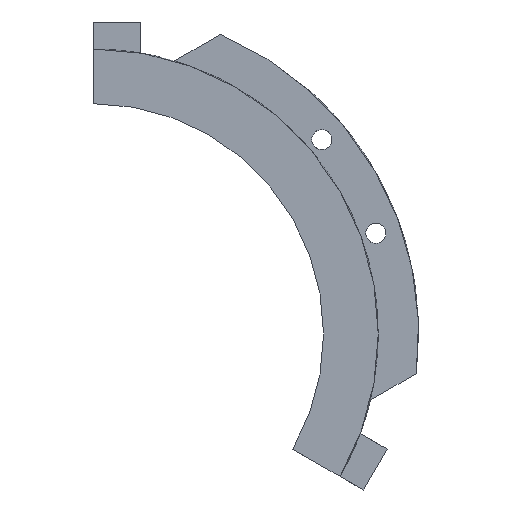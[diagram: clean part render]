
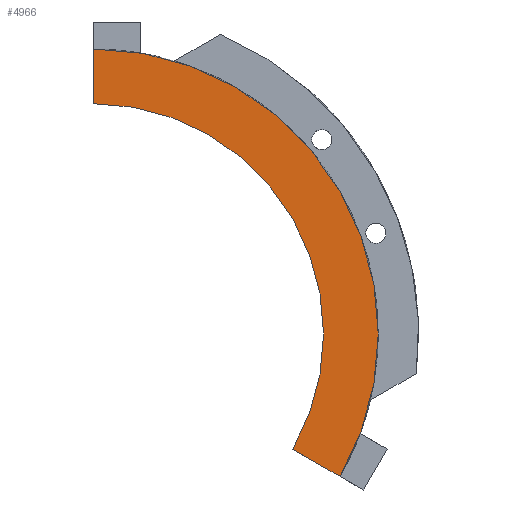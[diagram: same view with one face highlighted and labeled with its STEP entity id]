
A CAD part, left-side view. The second image highlights one B-rep face of the part: STEP entity #4966.
In plain terms, the highlighted planar face has unit normal (-1, 0, 0).
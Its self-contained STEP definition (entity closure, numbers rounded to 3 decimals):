
#32 = CYLINDRICAL_SURFACE('',#33,42.2);
#33 = AXIS2_PLACEMENT_3D('',#34,#35,#36);
#34 = CARTESIAN_POINT('',(-29.9,0.,0.));
#35 = DIRECTION('',(-1.,0.,-0.));
#36 = DIRECTION('',(0.,0.5,0.866));
#44 = PLANE('',#45);
#45 = AXIS2_PLACEMENT_3D('',#46,#47,#48);
#46 = CARTESIAN_POINT('',(-34.9,0.,200.));
#47 = DIRECTION('',(0.,1.,0.));
#48 = DIRECTION('',(0.,0.,-1.));
#101 = PLANE('',#102);
#102 = AXIS2_PLACEMENT_3D('',#103,#104,#105);
#103 = CARTESIAN_POINT('',(-34.9,0.,0.));
#104 = DIRECTION('',(0.,0.5,-0.866));
#105 = DIRECTION('',(0.,-0.866,-0.5));
#1254 = VERTEX_POINT('',#1255);
#1255 = CARTESIAN_POINT('',(-29.9,-36.546,-21.1));
#1276 = EDGE_CURVE('',#1277,#1254,#1279,.T.);
#1277 = VERTEX_POINT('',#1278);
#1278 = CARTESIAN_POINT('',(-29.9,0.,42.2));
#1279 = SURFACE_CURVE('',#1280,(#1285,#1292),.PCURVE_S1.);
#1280 = CIRCLE('',#1281,42.2);
#1281 = AXIS2_PLACEMENT_3D('',#1282,#1283,#1284);
#1282 = CARTESIAN_POINT('',(-29.9,0.,0.));
#1283 = DIRECTION('',(1.,0.,-0.));
#1284 = DIRECTION('',(0.,0.5,0.866));
#1285 = PCURVE('',#32,#1286);
#1286 = DEFINITIONAL_REPRESENTATION('',(#1287),#1291);
#1287 = LINE('',#1288,#1289);
#1288 = CARTESIAN_POINT('',(-0.,0.));
#1289 = VECTOR('',#1290,1.);
#1290 = DIRECTION('',(-1.,0.));
#1291 = ( GEOMETRIC_REPRESENTATION_CONTEXT(2) 
PARAMETRIC_REPRESENTATION_CONTEXT() REPRESENTATION_CONTEXT('2D SPACE',''
  ) );
#1292 = PCURVE('',#1293,#1298);
#1293 = PLANE('',#1294);
#1294 = AXIS2_PLACEMENT_3D('',#1295,#1296,#1297);
#1295 = CARTESIAN_POINT('',(-29.9,0.,0.
    ));
#1296 = DIRECTION('',(1.,0.,0.));
#1297 = DIRECTION('',(0.,-0.866,0.5));
#1298 = DEFINITIONAL_REPRESENTATION('',(#1299),#1303);
#1299 = CIRCLE('',#1300,42.2);
#1300 = AXIS2_PLACEMENT_2D('',#1301,#1302);
#1301 = CARTESIAN_POINT('',(0.,0.));
#1302 = DIRECTION('',(0.,-1.));
#1303 = ( GEOMETRIC_REPRESENTATION_CONTEXT(2) 
PARAMETRIC_REPRESENTATION_CONTEXT() REPRESENTATION_CONTEXT('2D SPACE',''
  ) );
#4461 = VERTEX_POINT('',#4462);
#4462 = CARTESIAN_POINT('',(-29.9,0.,34.1));
#4476 = CYLINDRICAL_SURFACE('',#4477,34.1);
#4477 = AXIS2_PLACEMENT_3D('',#4478,#4479,#4480);
#4478 = CARTESIAN_POINT('',(-29.9,0.,0.)
  );
#4479 = DIRECTION('',(-1.,0.,-0.));
#4480 = DIRECTION('',(0.,0.5,0.866));
#4488 = EDGE_CURVE('',#4461,#1277,#4489,.T.);
#4489 = SURFACE_CURVE('',#4490,(#4494,#4501),.PCURVE_S1.);
#4490 = LINE('',#4491,#4492);
#4491 = CARTESIAN_POINT('',(-29.9,0.,100.));
#4492 = VECTOR('',#4493,1.);
#4493 = DIRECTION('',(0.,0.,1.));
#4494 = PCURVE('',#44,#4495);
#4495 = DEFINITIONAL_REPRESENTATION('',(#4496),#4500);
#4496 = LINE('',#4497,#4498);
#4497 = CARTESIAN_POINT('',(100.,-5.));
#4498 = VECTOR('',#4499,1.);
#4499 = DIRECTION('',(-1.,0.));
#4500 = ( GEOMETRIC_REPRESENTATION_CONTEXT(2) 
PARAMETRIC_REPRESENTATION_CONTEXT() REPRESENTATION_CONTEXT('2D SPACE',''
  ) );
#4501 = PCURVE('',#1293,#4502);
#4502 = DEFINITIONAL_REPRESENTATION('',(#4503),#4507);
#4503 = LINE('',#4504,#4505);
#4504 = CARTESIAN_POINT('',(50.,-86.603));
#4505 = VECTOR('',#4506,1.);
#4506 = DIRECTION('',(0.5,-0.866));
#4507 = ( GEOMETRIC_REPRESENTATION_CONTEXT(2) 
PARAMETRIC_REPRESENTATION_CONTEXT() REPRESENTATION_CONTEXT('2D SPACE',''
  ) );
#4966 = ADVANCED_FACE('',(#4967),#1293,.F.);
#4967 = FACE_BOUND('',#4968,.F.);
#4968 = EDGE_LOOP('',(#4969,#4970,#4971,#4994));
#4969 = ORIENTED_EDGE('',*,*,#4488,.T.);
#4970 = ORIENTED_EDGE('',*,*,#1276,.T.);
#4971 = ORIENTED_EDGE('',*,*,#4972,.T.);
#4972 = EDGE_CURVE('',#1254,#4973,#4975,.T.);
#4973 = VERTEX_POINT('',#4974);
#4974 = CARTESIAN_POINT('',(-29.9,-29.531,-17.05));
#4975 = SURFACE_CURVE('',#4976,(#4980,#4987),.PCURVE_S1.);
#4976 = LINE('',#4977,#4978);
#4977 = CARTESIAN_POINT('',(-29.9,0.,0.
    ));
#4978 = VECTOR('',#4979,1.);
#4979 = DIRECTION('',(0.,0.866,0.5));
#4980 = PCURVE('',#1293,#4981);
#4981 = DEFINITIONAL_REPRESENTATION('',(#4982),#4986);
#4982 = LINE('',#4983,#4984);
#4983 = CARTESIAN_POINT('',(0.,0.));
#4984 = VECTOR('',#4985,1.);
#4985 = DIRECTION('',(-0.5,-0.866));
#4986 = ( GEOMETRIC_REPRESENTATION_CONTEXT(2) 
PARAMETRIC_REPRESENTATION_CONTEXT() REPRESENTATION_CONTEXT('2D SPACE',''
  ) );
#4987 = PCURVE('',#101,#4988);
#4988 = DEFINITIONAL_REPRESENTATION('',(#4989),#4993);
#4989 = LINE('',#4990,#4991);
#4990 = CARTESIAN_POINT('',(0.,-5.));
#4991 = VECTOR('',#4992,1.);
#4992 = DIRECTION('',(-1.,0.));
#4993 = ( GEOMETRIC_REPRESENTATION_CONTEXT(2) 
PARAMETRIC_REPRESENTATION_CONTEXT() REPRESENTATION_CONTEXT('2D SPACE',''
  ) );
#4994 = ORIENTED_EDGE('',*,*,#4995,.F.);
#4995 = EDGE_CURVE('',#4461,#4973,#4996,.T.);
#4996 = SURFACE_CURVE('',#4997,(#5002,#5009),.PCURVE_S1.);
#4997 = CIRCLE('',#4998,34.1);
#4998 = AXIS2_PLACEMENT_3D('',#4999,#5000,#5001);
#4999 = CARTESIAN_POINT('',(-29.9,0.,0.)
  );
#5000 = DIRECTION('',(1.,0.,-0.));
#5001 = DIRECTION('',(0.,0.5,0.866));
#5002 = PCURVE('',#1293,#5003);
#5003 = DEFINITIONAL_REPRESENTATION('',(#5004),#5008);
#5004 = CIRCLE('',#5005,34.1);
#5005 = AXIS2_PLACEMENT_2D('',#5006,#5007);
#5006 = CARTESIAN_POINT('',(0.,0.));
#5007 = DIRECTION('',(0.,-1.));
#5008 = ( GEOMETRIC_REPRESENTATION_CONTEXT(2) 
PARAMETRIC_REPRESENTATION_CONTEXT() REPRESENTATION_CONTEXT('2D SPACE',''
  ) );
#5009 = PCURVE('',#4476,#5010);
#5010 = DEFINITIONAL_REPRESENTATION('',(#5011),#5015);
#5011 = LINE('',#5012,#5013);
#5012 = CARTESIAN_POINT('',(-0.,0.));
#5013 = VECTOR('',#5014,1.);
#5014 = DIRECTION('',(-1.,0.));
#5015 = ( GEOMETRIC_REPRESENTATION_CONTEXT(2) 
PARAMETRIC_REPRESENTATION_CONTEXT() REPRESENTATION_CONTEXT('2D SPACE',''
  ) );
